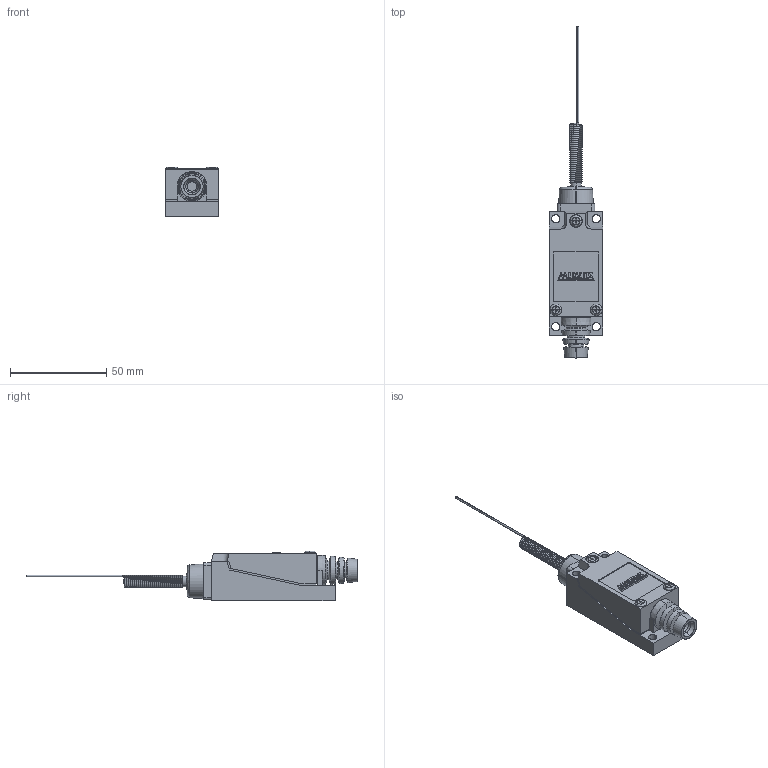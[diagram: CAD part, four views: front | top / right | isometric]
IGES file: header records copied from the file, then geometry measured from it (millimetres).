
Start section: SolidWorks IGES file using analytic representation for surfaces
Global section: file name: D:\X - Arquivos\PROEX\Empresas\P11 - METALTEX\01 - Produtos\IGES\4ª remessa\6ª etapa\FM8169.IGS; native system: SolidWorks 2012; preprocessor: SolidWorks 2012; author: Usuario; date: 180620.132607; units: millimetre
Bounding box: 28 x 172.38 x 25.9 mm (x, y, z)
Surface area: 13332.9 mm2 (no closed solid volume)
Topology: 0 solids, 0 shells, 272 faces, 2609 edges, 2609 vertices
Faces by surface type: bspline 206, revolution 66
